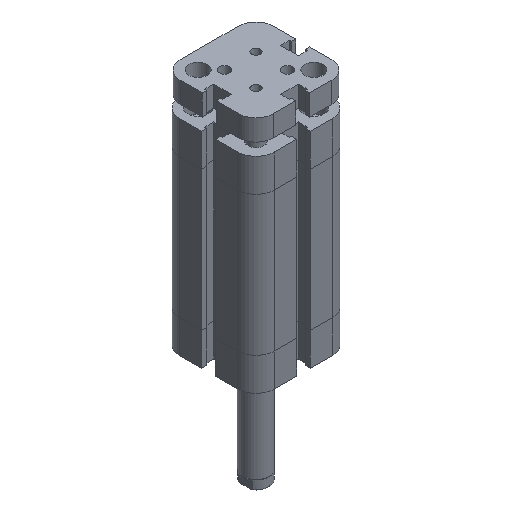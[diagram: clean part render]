
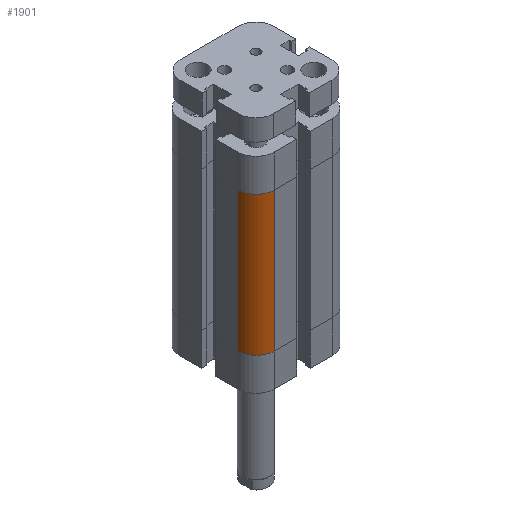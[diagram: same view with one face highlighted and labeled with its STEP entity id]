
A CAD part, isometric view. The second image highlights one B-rep face of the part: STEP entity #1901.
In plain terms, the highlighted cylindrical face has radius 7 mm (diameter 14 mm), a partial arc.
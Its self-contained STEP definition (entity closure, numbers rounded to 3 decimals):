
#1812=CARTESIAN_POINT('',(-18.,-11.0,12.5));
#1813=VERTEX_POINT('',#1812);
#1820=CARTESIAN_POINT('',(-18.,-11.0,65.5));
#1821=VERTEX_POINT('',#1820);
#1822=CARTESIAN_POINT('',(-18.,-11.0,12.5));
#1823=DIRECTION('',(0.0,0.0,1.0));
#1824=VECTOR('',#1823,53.0);
#1825=LINE('',#1822,#1824);
#1826=EDGE_CURVE('',#1813,#1821,#1825,.T.);
#1869=CARTESIAN_POINT('',(-11.0,-11.0,0.0));
#1870=DIRECTION('',(0.0,0.0,1.0));
#1871=DIRECTION('',(1.0,0.0,0.0));
#1872=AXIS2_PLACEMENT_3D('',#1869,#1870,#1871);
#1873=CYLINDRICAL_SURFACE('',#1872,7.0);
#1874=CARTESIAN_POINT('',(-11.0,-18.,12.5));
#1875=VERTEX_POINT('',#1874);
#1876=CARTESIAN_POINT('',(-11.0,-11.0,12.5));
#1877=DIRECTION('',(0.0,0.0,1.0));
#1878=DIRECTION('',(1.0,0.0,0.0));
#1879=AXIS2_PLACEMENT_3D('',#1876,#1877,#1878);
#1880=CIRCLE('',#1879,7.0);
#1881=EDGE_CURVE('',#1813,#1875,#1880,.T.);
#1882=ORIENTED_EDGE('',*,*,#1881,.T.);
#1883=CARTESIAN_POINT('',(-11.0,-18.,65.5));
#1884=VERTEX_POINT('',#1883);
#1885=CARTESIAN_POINT('',(-11.0,-18.,12.5));
#1886=DIRECTION('',(0.0,0.0,1.0));
#1887=VECTOR('',#1886,53.0);
#1888=LINE('',#1885,#1887);
#1889=EDGE_CURVE('',#1875,#1884,#1888,.T.);
#1890=ORIENTED_EDGE('',*,*,#1889,.T.);
#1891=CARTESIAN_POINT('',(-11.0,-11.0,65.5));
#1892=DIRECTION('',(0.0,0.0,1.0));
#1893=DIRECTION('',(1.0,0.0,0.0));
#1894=AXIS2_PLACEMENT_3D('',#1891,#1892,#1893);
#1895=CIRCLE('',#1894,7.0);
#1896=EDGE_CURVE('',#1821,#1884,#1895,.T.);
#1897=ORIENTED_EDGE('',*,*,#1896,.F.);
#1898=ORIENTED_EDGE('',*,*,#1826,.F.);
#1899=EDGE_LOOP('',(#1882,#1890,#1897,#1898));
#1900=FACE_OUTER_BOUND('',#1899,.T.);
#1901=ADVANCED_FACE('',(#1900),#1873,.T.);
